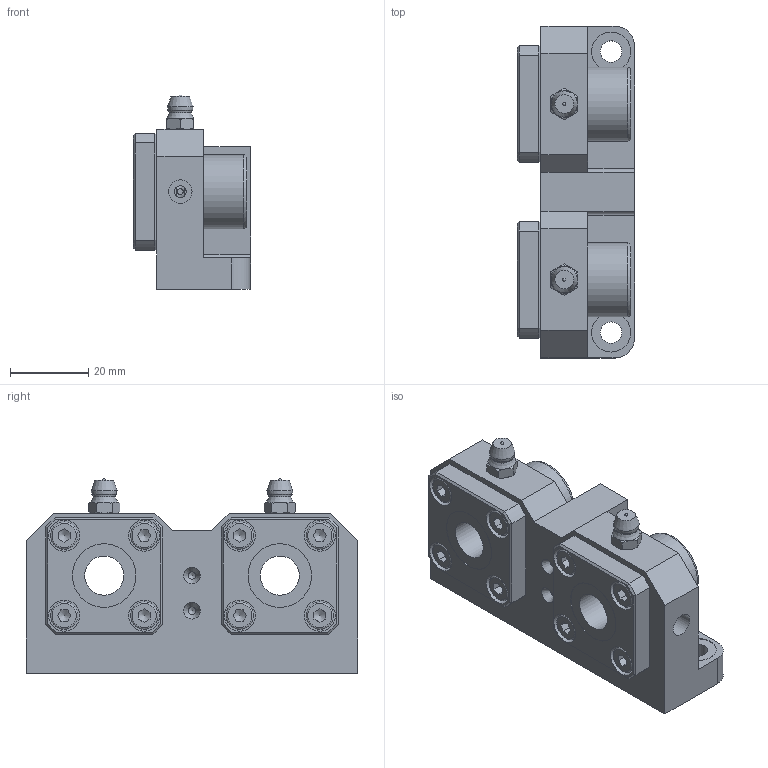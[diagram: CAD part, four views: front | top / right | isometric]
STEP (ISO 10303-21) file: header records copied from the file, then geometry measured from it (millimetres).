
FILE_DESCRIPTION((''),'2;1');
FILE_NAME('D:\製品 (図面)\カタログ用3D\リニアベアリング関連\STEP形式\LUF\LUF10.stp','2010-07-29T14:25:01',('Tsuchiya'),(''),'Autodesk Inventor 10','Autodesk Inventor 10','');
FILE_SCHEMA(('AUTOMOTIVE_DESIGN { 1 0 10303 214 1 1 1 1 }'));
Length unit declared in the file: millimetre
Products named in the file (4): LUF10; LUF101; LUF102; LUF103
Assembly tree (3 placements, depth 2):
  LUF10
    LUF101
    LUF102
    LUF103
Bounding box: 30 x 85 x 49.8 mm (x, y, z)
Volume: 62607.7 mm3; surface area: 27818.6 mm2
Topology: 13 solids, 13 shells, 342 faces, 750 edges, 470 vertices
Faces by surface type: plane 156, cylinder 78, cone 64, bspline 30, torus 10, sphere 4
Full cylindrical faces by diameter (mm): 2 x2, 3 x3, 4 x12, 4.5 x8, 5.5 x1, 6 x4, 7 x8, 8 x8, 10 x3, 16.3 x4, 19 x5
Entity records: 10055 total; most frequent: CARTESIAN_POINT 3367, DIRECTION 1320, ORIENTED_EDGE 1184, EDGE_CURVE 592, EDGE_LOOP 558, AXIS2_PLACEMENT_3D 557, VERTEX_POINT 440, FACE_OUTER_BOUND 342
